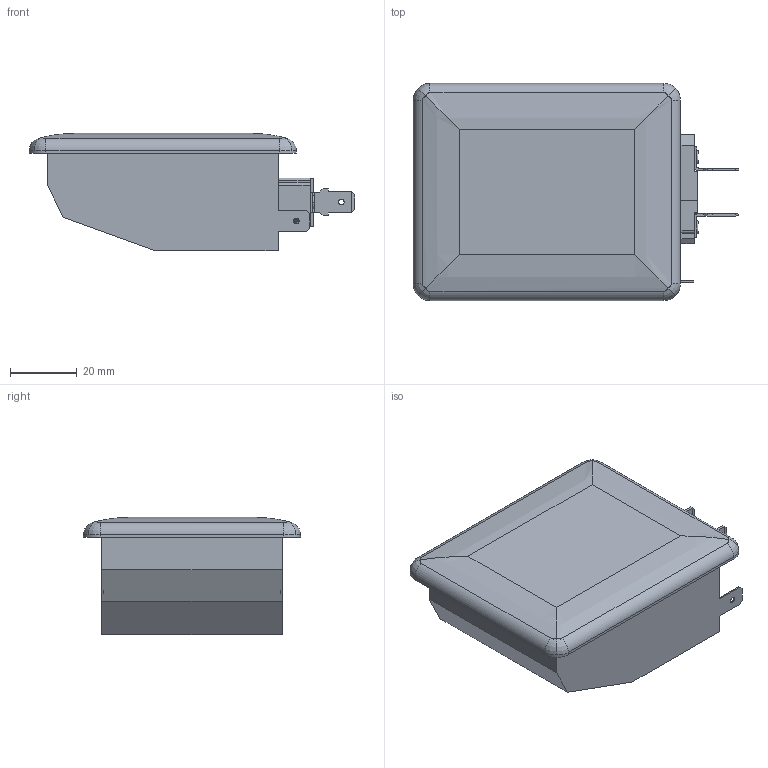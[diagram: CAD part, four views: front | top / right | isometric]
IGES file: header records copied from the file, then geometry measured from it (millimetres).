
Global section: file name: C:\CoreTechnologie\3D-In/01BYM08Y04.igs; native system: CT CoreTechnologie 3D Evolution; preprocessor: 2006; date: 1200927.101603; units: millimetre
Bounding box: 97.45 x 65 x 35.15 mm (x, y, z)
Volume: 50827.7 mm3; surface area: 41390.9 mm2
Topology: 8 solids, 8 shells, 1211 faces, 3191 edges, 2080 vertices
Faces by surface type: plane 605, bspline 304, revolution 302
